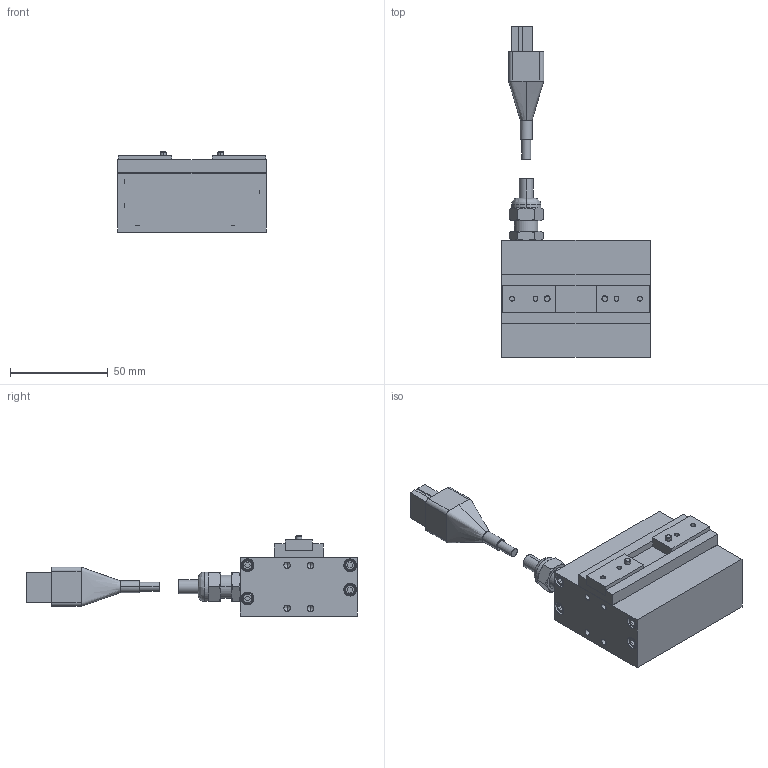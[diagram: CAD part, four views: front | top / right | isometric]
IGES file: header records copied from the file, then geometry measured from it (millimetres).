
Start section: SolidWorks IGES file using analytic representation for surfaces
Global section: file name: G:\SW2007図面\TAIYO\電動機器３Ｄ\電動グリッパ　２爪\ESG1-FT-2020-P.IGS; native system: SolidWorks 2007; preprocessor: SolidWorks 2007; author: 風音庵,,1; organization: 1; date: 090212.171123; units: millimetre
Bounding box: 76 x 169.39 x 41 mm (x, y, z)
Surface area: 33096.6 mm2 (no closed solid volume)
Topology: 0 solids, 0 shells, 441 faces, 4835 edges, 4811 vertices
Faces by surface type: bspline 265, revolution 176
